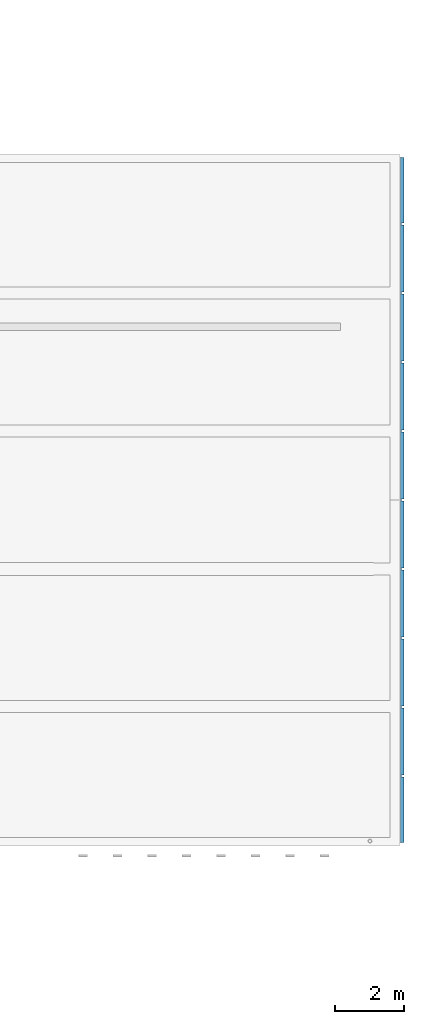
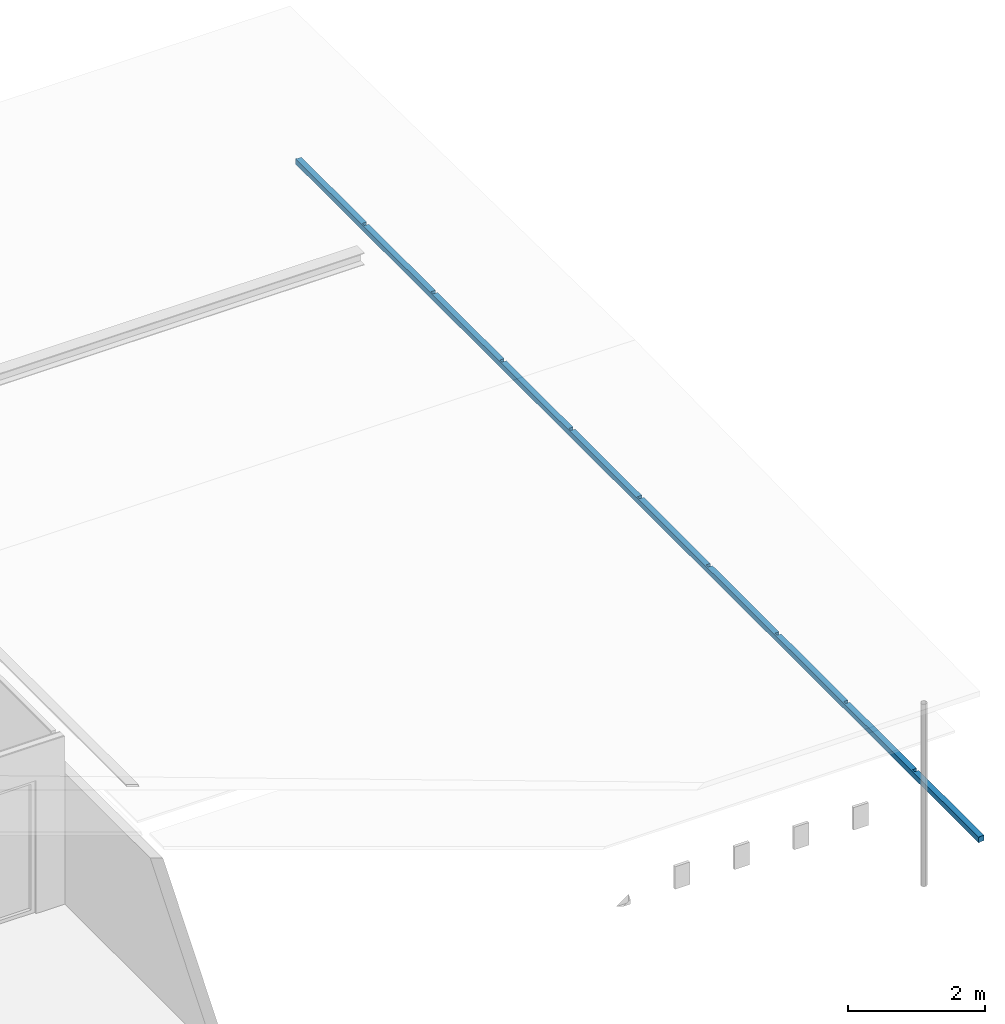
# One storey, part 4 of 25: 1 beam.
"""IFC2X3 building model written with IfcOpenShell, lengths in millimetres."""

from ifc_helpers import new_model, entity, si_unit, converted_unit, derived_unit, money_unit, direction, frame, origin_with_axes, place, context, subcontext, project, spatial, faceted_brep, material, type_object, element, save


model = new_model("IFC2X3")

# Units and contexts
model_context = context("Model", 3, precision=0.01, world=origin_with_axes(), true_north=direction((0.0, 1.0)))
body_context = subcontext(model_context, "Body", "Model", "MODEL_VIEW")
ifc_project = project(units=[si_unit("LENGTHUNIT", "METRE", prefix="MILLI"), si_unit("AREAUNIT", "SQUARE_METRE"), si_unit("VOLUMEUNIT", "CUBIC_METRE"), converted_unit("PLANEANGLEUNIT", "DEGREE", entity("IfcPlaneAngleMeasure", 0.0174532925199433), si_unit("PLANEANGLEUNIT", "RADIAN"), dimensions=[0, 0, 0, 0, 0, 0, 0]), money_unit("EUR"), converted_unit("TIMEUNIT", "Year", entity("IfcTimeMeasure", 31557600.0), si_unit("TIMEUNIT", "SECOND"), dimensions=[0, 0, 1, 0, 0, 0, 0]), si_unit("MASSUNIT", "GRAM", prefix="KILO"), si_unit("THERMODYNAMICTEMPERATUREUNIT", "DEGREE_CELSIUS"), si_unit("LUMINOUSINTENSITYUNIT", "LUMEN"), si_unit("ENERGYUNIT", "JOULE", prefix="MEGA"), derived_unit("THERMALCONDUCTANCEUNIT", [(si_unit("POWERUNIT", "WATT"), 1), (si_unit("LENGTHUNIT", "METRE"), -1), (si_unit("THERMODYNAMICTEMPERATUREUNIT", "KELVIN"), -1)]), derived_unit("SPECIFICHEATCAPACITYUNIT", [(si_unit("ENERGYUNIT", "JOULE"), 1), (si_unit("MASSUNIT", "GRAM", prefix="KILO"), -1), (si_unit("THERMODYNAMICTEMPERATUREUNIT", "KELVIN"), -1)]), derived_unit("MASSDENSITYUNIT", [(si_unit("MASSUNIT", "GRAM", prefix="KILO"), 1), (si_unit("VOLUMEUNIT", "CUBIC_METRE"), -1)])], contexts=[model_context])

# Site, building, storey
site_placement = place(None, origin_with_axes())
site = spatial("IfcSite", under=ifc_project, at=site_placement, Name="<site naam>", CompositionType="ELEMENT")
building_placement = place(site_placement, origin_with_axes())
building = spatial("IfcBuilding", under=site, at=building_placement, Name="<Naam gebouw>", CompositionType="ELEMENT")
storey_placement = place(building_placement, frame((0.0, 0.0, 9563.0), z_axis=(0.0, 0.0, 1.0), x_axis=(1.0, 0.0, 0.0)))
storey = spatial("IfcBuildingStorey", under=building, at=storey_placement, Name="03 3e tussenverdieping", CompositionType="ELEMENT", Elevation=9563.0)

# Beam
ifc_material = material(Name="ALG - BUITENAFWERKING")
beam_type = type_object("IfcBeamType", Name="ALG - BUITENAFWERKING 95 x 95", PredefinedType="BEAM")
beam_placement = place(storey_placement, frame((70212.79471105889, 19939.99999696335, 561.316326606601), z_axis=(0.0, 0.0, 1.0), x_axis=(-1.0, 0.0, 0.0)))
element("IfcBeam", 1, at=beam_placement, inside=storey, type_object=beam_type, material=ifc_material, Name="41_Balk_ALG", ObjectType="BEAM", context=body_context, shape_type="Brep", body=[
    faceted_brep([(0.0, 3969.99999696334, 0.0), (72.7947110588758, 3969.99999696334, 0.0), (72.7947110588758, 3909.99999696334, 0.0), (0.0, 3909.99999696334, 0.0), (0.0, 1969.999996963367, 0.0), (72.7947110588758, 1969.999996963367, 0.0), (72.7947110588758, 1909.999996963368, 0.0), (0.0, 1909.999996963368, 0.0), (0.0, 9.999997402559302, 0.0), (72.7947110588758, 9.999997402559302, 0.0), (72.7947110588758, 0.0, 0.0), (95.0000302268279, 0.0, 0.0), (95.0000302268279, 19879.99999652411, 0.0), (72.7947110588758, 19879.99999652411, 0.0), (72.7947110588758, 19869.99999652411, 0.0), (0.0, 19869.99999652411, 0.0), (0.0, 17969.99999696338, 0.0), (72.7947110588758, 17969.99999696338, 0.0), (72.7947110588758, 17909.99999696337, 0.0), (0.0, 17909.99999696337, 0.0), (0.0, 15969.99999767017, 0.0), (72.7947110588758, 15969.99999767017, 0.0), (72.7947110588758, 15909.99999767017, 0.0), (0.0, 15909.99999767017, 0.0), (0.0, 13969.99999696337, 0.0), (72.7947110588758, 13969.99999696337, 0.0), (72.7947110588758, 13909.99999696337, 0.0), (0.0, 13909.99999696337, 0.0), (0.0, 11969.99999767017, 0.0), (72.7947110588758, 11969.99999767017, 0.0), (72.7947110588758, 11909.99999767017, 0.0), (0.0, 11909.99999767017, 0.0), (0.0, 9972.999996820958, 0.0), (72.7947110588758, 9972.999996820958, 0.0), (72.7947110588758, 9912.999996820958, 0.0), (0.0, 9912.999996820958, 0.0), (0.0, 7972.999996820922, 0.0), (72.7947110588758, 7972.999996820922, 0.0), (72.7947110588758, 7912.999996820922, 0.0), (0.0, 7912.999996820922, 0.0), (0.0, 5969.999996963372, 0.0), (72.7947110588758, 5969.999996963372, 0.0), (72.7947110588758, 5909.999996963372, 0.0), (0.0, 5909.999996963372, 0.0), (72.7947110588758, 3969.99999696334, -95.0000009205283), (0.0, 3969.99999696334, -95.0000009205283), (72.7947110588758, 3909.99999696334, -95.0000009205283), (0.0, 3909.99999696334, -95.0000009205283), (0.0, 1969.999996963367, -95.0000009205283), (72.7947110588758, 1969.999996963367, -95.0000009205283), (72.7947110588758, 1909.999996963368, -95.0000009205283), (0.0, 1909.999996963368, -95.0000009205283), (0.0, 9.999997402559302, -95.0000009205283), (72.7947110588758, 9.999997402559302, -95.0000009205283), (72.7947110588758, 0.0, -95.0000009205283), (95.0000302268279, 0.0, -95.0000009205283), (95.0000302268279, 19879.99999652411, -95.0000009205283), (72.7947110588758, 19879.99999652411, -95.0000009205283), (72.7947110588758, 19869.99999652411, -95.0000009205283), (0.0, 19869.99999652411, -95.0000009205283), (0.0, 17969.99999696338, -95.0000009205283), (72.7947110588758, 17969.99999696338, -95.0000009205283), (72.7947110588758, 17909.99999696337, -95.0000009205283), (0.0, 17909.99999696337, -95.0000009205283), (0.0, 15969.99999767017, -95.0000009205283), (72.7947110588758, 15969.99999767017, -95.0000009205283), (72.7947110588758, 15909.99999767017, -95.0000009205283), (0.0, 15909.99999767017, -95.0000009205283), (0.0, 13969.99999696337, -95.0000009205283), (72.7947110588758, 13969.99999696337, -95.0000009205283), (72.7947110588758, 13909.99999696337, -95.0000009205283), (0.0, 13909.99999696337, -95.0000009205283), (0.0, 11969.99999767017, -95.0000009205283), (72.7947110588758, 11969.99999767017, -95.0000009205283), (72.7947110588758, 11909.99999767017, -95.0000009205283), (0.0, 11909.99999767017, -95.0000009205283), (0.0, 9972.999996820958, -95.0000009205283), (72.7947110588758, 9972.999996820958, -95.0000009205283), (72.7947110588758, 9912.999996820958, -95.0000009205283), (0.0, 9912.999996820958, -95.0000009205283), (0.0, 7972.999996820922, -95.0000009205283), (72.7947110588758, 7972.999996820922, -95.0000009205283), (72.7947110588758, 7912.999996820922, -95.0000009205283), (0.0, 7912.999996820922, -95.0000009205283), (0.0, 5969.999996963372, -95.0000009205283), (72.7947110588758, 5969.999996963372, -95.0000009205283), (72.7947110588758, 5909.999996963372, -95.0000009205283), (0.0, 5909.999996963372, -95.0000009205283)], [[[0, 1, 2, 3, 4, 5, 6, 7, 8, 9, 10, 11, 12, 13, 14, 15, 16, 17, 18, 19, 20, 21, 22, 23, 24, 25, 26, 27, 28, 29, 30, 31, 32, 33, 34, 35, 36, 37, 38, 39, 40, 41, 42, 43]], [[44, 1, 0, 45]], [[46, 2, 1, 44]], [[46, 47, 3, 2]], [[4, 3, 47, 48]], [[49, 5, 4, 48]], [[50, 6, 5, 49]], [[50, 51, 7, 6]], [[51, 52, 8, 7]], [[53, 9, 8, 52]], [[53, 54, 10, 9]], [[11, 10, 54, 55]], [[11, 55, 56, 12]], [[56, 57, 13, 12]], [[58, 14, 13, 57]], [[58, 59, 15, 14]], [[59, 60, 16, 15]], [[61, 17, 16, 60]], [[62, 18, 17, 61]], [[62, 63, 19, 18]], [[63, 64, 20, 19]], [[65, 21, 20, 64]], [[66, 22, 21, 65]], [[66, 67, 23, 22]], [[67, 68, 24, 23]], [[69, 25, 24, 68]], [[70, 26, 25, 69]], [[70, 71, 27, 26]], [[71, 72, 28, 27]], [[73, 29, 28, 72]], [[74, 30, 29, 73]], [[74, 75, 31, 30]], [[75, 76, 32, 31]], [[77, 33, 32, 76]], [[78, 34, 33, 77]], [[78, 79, 35, 34]], [[79, 80, 36, 35]], [[81, 37, 36, 80]], [[82, 38, 37, 81]], [[82, 83, 39, 38]], [[83, 84, 40, 39]], [[85, 41, 40, 84]], [[86, 42, 41, 85]], [[86, 87, 43, 42]], [[87, 45, 0, 43]], [[46, 44, 45, 87, 86, 85, 84, 83, 82, 81, 80, 79, 78, 77, 76, 75, 74, 73, 72, 71, 70, 69, 68, 67, 66, 65, 64, 63, 62, 61, 60, 59, 58, 57, 56, 55, 54, 53, 52, 51, 50, 49, 48, 47]]]),
])

save(model, "model.ifc")
